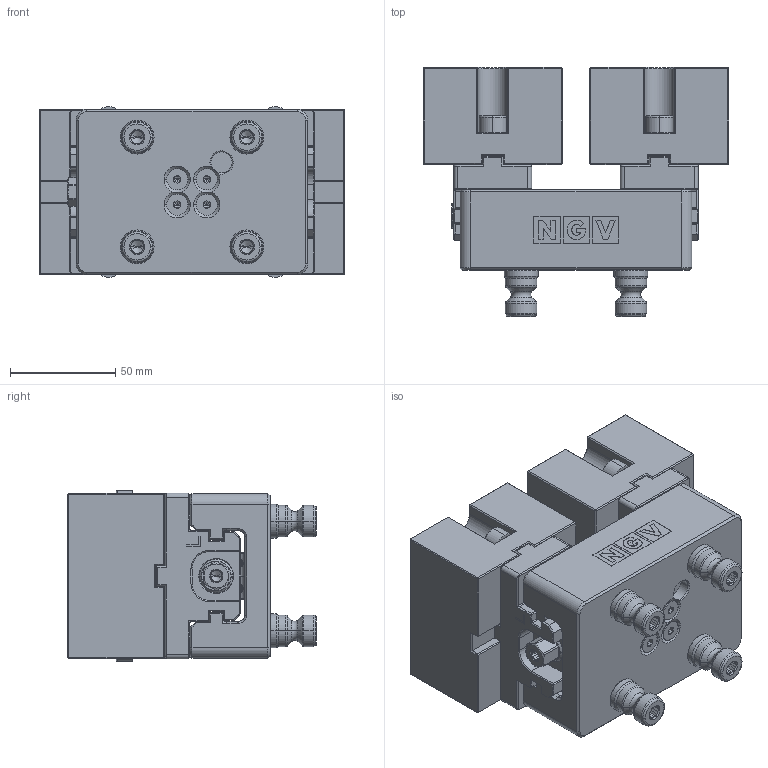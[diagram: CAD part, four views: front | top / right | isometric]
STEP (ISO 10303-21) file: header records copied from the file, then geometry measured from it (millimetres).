
FILE_DESCRIPTION((''),'2;1');
FILE_NAME('SJV78S_00_0_ASM','2025-06-26T',('tibi'),(''),'PRO/ENGINEER BY PARAMETRIC TECHNOLOGY CORPORATION, 2010280','PRO/ENGINEER BY PARAMETRIC TECHNOLOGY CORPORATION, 2010280','');
FILE_SCHEMA(('CONFIG_CONTROL_DESIGN'));
Length unit declared in the file: millimetre
Products named in the file (14): CORP_1; SEMICUPLA; SURUB_1; INEL_O_10SI5X1SI75; SURUB_M5X12; BJSM78-1-01-0_SANIE; BJSM78-1-02-0_SANIE_STANGA; SURUB_CAP_INBUS_M8X25; PIN_CENTRARE; STIFT_FILETAT_M8X20; SASS_PIN_ASM; SJV78-MENGHINA_ASM; BJSM78-1-03-0_BAC_MOALE_OTEL; SJV78S_00_0_ASM
Assembly tree (25 placements, depth 4):
  SJV78S_00_0_ASM
    SJV78-MENGHINA_ASM
      CORP_1
      SEMICUPLA  x2
      SURUB_1
      INEL_O_10SI5X1SI75  x2
      SURUB_M5X12  x4
      BJSM78-1-01-0_SANIE
      BJSM78-1-02-0_SANIE_STANGA
      SURUB_CAP_INBUS_M8X25  x4
      SASS_PIN_ASM  x4
        PIN_CENTRARE
        STIFT_FILETAT_M8X20
    BJSM78-1-03-0_BAC_MOALE_OTEL  x2
Bounding box: 145 x 118 x 81 mm (x, y, z)
Volume: 814012.3 mm3; surface area: 159913.4 mm2
Topology: 26 solids, 54 shells, 1813 faces, 4496 edges, 2761 vertices
Faces by surface type: plane 974, cylinder 368, cone 333, torus 84, extrusion 38, bspline 16
Entity records: 36945 total; most frequent: CARTESIAN_POINT 7788, DIRECTION 5973, ORIENTED_EDGE 5934, EDGE_CURVE 3005, VECTOR 2111, LINE 2073, AXIS2_PLACEMENT_3D 1931, VERTEX_POINT 1882
